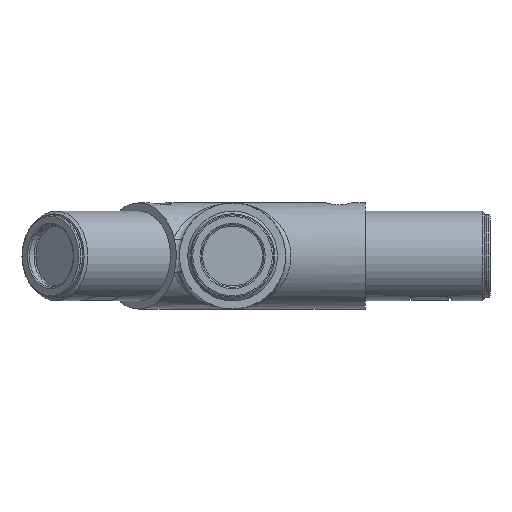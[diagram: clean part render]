
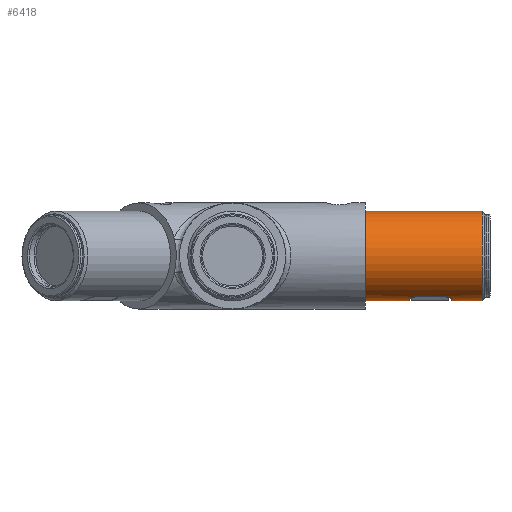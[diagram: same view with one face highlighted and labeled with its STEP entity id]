
A CAD part, left-side view. The second image highlights one B-rep face of the part: STEP entity #6418.
In plain terms, the highlighted cylindrical face has radius 16.9 mm (diameter 33.8 mm), a full revolution.
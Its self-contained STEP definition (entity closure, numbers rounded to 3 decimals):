
#389=ELLIPSE('',#6901,17.496,16.9);
#390=ELLIPSE('',#6904,17.496,16.9);
#490=CIRCLE('',#6858,16.9);
#510=CIRCLE('',#6900,16.9);
#511=CIRCLE('',#6902,16.9);
#512=CIRCLE('',#6903,16.9);
#764=CYLINDRICAL_SURFACE('',#6899,16.9);
#860=FACE_OUTER_BOUND('',#1271,.T.);
#1271=EDGE_LOOP('',(#4622,#4623,#4624,#4625,#4626,#4627,#4628,#4629,#4630,
#4631,#4632,#4633,#4634,#4635,#4636,#4637));
#1724=LINE('',#12682,#2257);
#1725=LINE('',#12697,#2258);
#1726=LINE('',#12711,#2259);
#1727=LINE('',#12726,#2260);
#2257=VECTOR('',#7714,16.9);
#2258=VECTOR('',#7717,1000.);
#2259=VECTOR('',#7720,16.9);
#2260=VECTOR('',#7723,1000.);
#2795=B_SPLINE_CURVE_WITH_KNOTS('',3,(#12686,#12687,#12688,#12689,#12690,
#12691,#12692,#12693,#12694,#12695),.UNSPECIFIED.,.F.,.F.,(4,2,2,2,4),(-0.952,
-0.869,-0.787,-0.706,-0.625),
 .UNSPECIFIED.);
#2796=B_SPLINE_CURVE_WITH_KNOTS('',3,(#12699,#12700,#12701,#12702,#12703,
#12704,#12705,#12706,#12707,#12708),.UNSPECIFIED.,.F.,.F.,(4,2,2,2,4),(-1.236,
-1.16,-1.085,-1.004,-0.924),
 .UNSPECIFIED.);
#2797=B_SPLINE_CURVE_WITH_KNOTS('',3,(#12715,#12716,#12717,#12718,#12719,
#12720,#12721,#12722,#12723,#12724),.UNSPECIFIED.,.F.,.F.,(4,2,2,2,4),(-0.929,
-0.849,-0.769,-0.693,-0.618),
 .UNSPECIFIED.);
#2798=B_SPLINE_CURVE_WITH_KNOTS('',3,(#12728,#12729,#12730,#12731,#12732,
#12733,#12734,#12735,#12736,#12737),.UNSPECIFIED.,.F.,.F.,(4,2,2,2,4),(-1.258,
-1.177,-1.096,-1.014,-0.931),
 .UNSPECIFIED.);
#2887=VERTEX_POINT('',#11996);
#2934=VERTEX_POINT('',#12679);
#2935=VERTEX_POINT('',#12681);
#2936=VERTEX_POINT('',#12683);
#2937=VERTEX_POINT('',#12685);
#2938=VERTEX_POINT('',#12696);
#2939=VERTEX_POINT('',#12698);
#2940=VERTEX_POINT('',#12709);
#2941=VERTEX_POINT('',#12712);
#2942=VERTEX_POINT('',#12714);
#2943=VERTEX_POINT('',#12725);
#2944=VERTEX_POINT('',#12727);
#3523=EDGE_CURVE('',#2887,#2887,#490,.T.);
#3597=EDGE_CURVE('',#2934,#2934,#510,.T.);
#3598=EDGE_CURVE('',#2934,#2935,#1724,.T.);
#3599=EDGE_CURVE('',#2936,#2935,#389,.T.);
#3600=EDGE_CURVE('',#2936,#2937,#2795,.T.);
#3601=EDGE_CURVE('',#2937,#2938,#1725,.T.);
#3602=EDGE_CURVE('',#2938,#2939,#2796,.T.);
#3603=EDGE_CURVE('',#2939,#2940,#511,.T.);
#3604=EDGE_CURVE('',#2940,#2887,#1726,.T.);
#3605=EDGE_CURVE('',#2940,#2941,#512,.T.);
#3606=EDGE_CURVE('',#2941,#2942,#2797,.T.);
#3607=EDGE_CURVE('',#2942,#2943,#1727,.T.);
#3608=EDGE_CURVE('',#2943,#2944,#2798,.T.);
#3609=EDGE_CURVE('',#2935,#2944,#390,.T.);
#4622=ORIENTED_EDGE('',*,*,#3597,.T.);
#4623=ORIENTED_EDGE('',*,*,#3598,.T.);
#4624=ORIENTED_EDGE('',*,*,#3599,.F.);
#4625=ORIENTED_EDGE('',*,*,#3600,.T.);
#4626=ORIENTED_EDGE('',*,*,#3601,.T.);
#4627=ORIENTED_EDGE('',*,*,#3602,.T.);
#4628=ORIENTED_EDGE('',*,*,#3603,.T.);
#4629=ORIENTED_EDGE('',*,*,#3604,.T.);
#4630=ORIENTED_EDGE('',*,*,#3523,.T.);
#4631=ORIENTED_EDGE('',*,*,#3604,.F.);
#4632=ORIENTED_EDGE('',*,*,#3605,.T.);
#4633=ORIENTED_EDGE('',*,*,#3606,.T.);
#4634=ORIENTED_EDGE('',*,*,#3607,.T.);
#4635=ORIENTED_EDGE('',*,*,#3608,.T.);
#4636=ORIENTED_EDGE('',*,*,#3609,.F.);
#4637=ORIENTED_EDGE('',*,*,#3598,.F.);
#6418=ADVANCED_FACE('',(#860),#764,.T.);
#6858=AXIS2_PLACEMENT_3D('',#11997,#7605,#7606);
#6899=AXIS2_PLACEMENT_3D('',#12678,#7710,#7711);
#6900=AXIS2_PLACEMENT_3D('',#12680,#7712,#7713);
#6901=AXIS2_PLACEMENT_3D('',#12684,#7715,#7716);
#6902=AXIS2_PLACEMENT_3D('',#12710,#7718,#7719);
#6903=AXIS2_PLACEMENT_3D('',#12713,#7721,#7722);
#6904=AXIS2_PLACEMENT_3D('',#12738,#7724,#7725);
#7605=DIRECTION('center_axis',(0.,1.,0.));
#7606=DIRECTION('ref_axis',(0.,0.,-1.));
#7710=DIRECTION('center_axis',(0.,1.,0.));
#7711=DIRECTION('ref_axis',(0.,0.,1.));
#7712=DIRECTION('center_axis',(0.,-1.,0.));
#7713=DIRECTION('ref_axis',(0.,0.,1.));
#7714=DIRECTION('',(0.,-1.,0.));
#7715=DIRECTION('center_axis',(0.,-0.966,
-0.259));
#7716=DIRECTION('ref_axis',(0.,0.259,-0.966));
#7717=DIRECTION('',(0.,-1.,0.));
#7718=DIRECTION('center_axis',(0.,-1.,0.));
#7719=DIRECTION('ref_axis',(0.,0.,-1.));
#7720=DIRECTION('',(0.,-1.,0.));
#7721=DIRECTION('center_axis',(0.,-1.,0.));
#7722=DIRECTION('ref_axis',(0.,0.,-1.));
#7723=DIRECTION('',(0.,1.,0.));
#7724=DIRECTION('center_axis',(0.,-0.966,
-0.259));
#7725=DIRECTION('ref_axis',(0.,0.259,-0.966));
#11996=CARTESIAN_POINT('',(-27.97,-67.644,-14.414));
#11997=CARTESIAN_POINT('Origin',(-27.97,-67.644,2.486));
#12678=CARTESIAN_POINT('Origin',(-27.97,-68.644,2.486));
#12679=CARTESIAN_POINT('',(-27.97,-23.644,-14.414));
#12680=CARTESIAN_POINT('Origin',(-27.97,-23.644,2.486));
#12681=CARTESIAN_POINT('',(-27.97,-40.319,-14.414));
#12682=CARTESIAN_POINT('',(-27.97,-68.644,-14.414));
#12683=CARTESIAN_POINT('',(-32.97,-40.521,-13.658));
#12684=CARTESIAN_POINT('Origin',(-27.97,-44.847,2.486));
#12685=CARTESIAN_POINT('',(-34.97,-42.796,-12.896));
#12686=CARTESIAN_POINT('Ctrl Pts',(-32.97,-40.521,
-13.658));
#12687=CARTESIAN_POINT('Ctrl Pts',(-33.231,-40.543,
-13.577));
#12688=CARTESIAN_POINT('Ctrl Pts',(-33.503,-40.623,
-13.485));
#12689=CARTESIAN_POINT('Ctrl Pts',(-33.994,-40.887,
-13.306));
#12690=CARTESIAN_POINT('Ctrl Pts',(-34.215,-41.069,-13.219));
#12691=CARTESIAN_POINT('Ctrl Pts',(-34.56,-41.467,
-13.078));
#12692=CARTESIAN_POINT('Ctrl Pts',(-34.711,-41.71,
-13.012));
#12693=CARTESIAN_POINT('Ctrl Pts',(-34.916,-42.24,
-12.921));
#12694=CARTESIAN_POINT('Ctrl Pts',(-34.97,-42.526,
-12.896));
#12695=CARTESIAN_POINT('Ctrl Pts',(-34.97,-42.796,
-12.896));
#12696=CARTESIAN_POINT('',(-34.97,-54.144,-12.896));
#12697=CARTESIAN_POINT('',(-34.97,-68.644,-12.896));
#12698=CARTESIAN_POINT('',(-32.97,-56.144,-13.658));
#12699=CARTESIAN_POINT('Ctrl Pts',(-34.97,-54.144,
-12.896));
#12700=CARTESIAN_POINT('Ctrl Pts',(-34.97,-54.395,
-12.896));
#12701=CARTESIAN_POINT('Ctrl Pts',(-34.919,-54.661,
-12.92));
#12702=CARTESIAN_POINT('Ctrl Pts',(-34.72,-55.147,-13.008));
#12703=CARTESIAN_POINT('Ctrl Pts',(-34.571,-55.366,
-13.073));
#12704=CARTESIAN_POINT('Ctrl Pts',(-34.222,-55.724,
-13.216));
#12705=CARTESIAN_POINT('Ctrl Pts',(-33.995,-55.882,
-13.306));
#12706=CARTESIAN_POINT('Ctrl Pts',(-33.497,-56.092,
-13.487));
#12707=CARTESIAN_POINT('Ctrl Pts',(-33.226,-56.144,
-13.578));
#12708=CARTESIAN_POINT('Ctrl Pts',(-32.97,-56.144,
-13.658));
#12709=CARTESIAN_POINT('',(-27.97,-56.144,-14.414));
#12710=CARTESIAN_POINT('Origin',(-27.97,-56.144,2.486));
#12711=CARTESIAN_POINT('',(-27.97,-68.644,-14.414));
#12712=CARTESIAN_POINT('',(-22.97,-56.144,-13.658));
#12713=CARTESIAN_POINT('Origin',(-27.97,-56.144,2.486));
#12714=CARTESIAN_POINT('',(-20.97,-54.144,-12.896));
#12715=CARTESIAN_POINT('Ctrl Pts',(-22.97,-56.144,
-13.658));
#12716=CARTESIAN_POINT('Ctrl Pts',(-22.714,-56.144,
-13.578));
#12717=CARTESIAN_POINT('Ctrl Pts',(-22.442,-56.092,
-13.487));
#12718=CARTESIAN_POINT('Ctrl Pts',(-21.944,-55.882,
-13.306));
#12719=CARTESIAN_POINT('Ctrl Pts',(-21.717,-55.724,
-13.216));
#12720=CARTESIAN_POINT('Ctrl Pts',(-21.369,-55.366,-13.073));
#12721=CARTESIAN_POINT('Ctrl Pts',(-21.22,-55.147,-13.008));
#12722=CARTESIAN_POINT('Ctrl Pts',(-21.02,-54.661,
-12.92));
#12723=CARTESIAN_POINT('Ctrl Pts',(-20.97,-54.395,
-12.896));
#12724=CARTESIAN_POINT('Ctrl Pts',(-20.97,-54.144,
-12.896));
#12725=CARTESIAN_POINT('',(-20.97,-42.796,-12.896));
#12726=CARTESIAN_POINT('',(-20.97,-68.644,-12.896));
#12727=CARTESIAN_POINT('',(-22.97,-40.521,-13.658));
#12728=CARTESIAN_POINT('Ctrl Pts',(-20.97,-42.796,
-12.896));
#12729=CARTESIAN_POINT('Ctrl Pts',(-20.97,-42.526,
-12.896));
#12730=CARTESIAN_POINT('Ctrl Pts',(-21.023,-42.24,
-12.921));
#12731=CARTESIAN_POINT('Ctrl Pts',(-21.228,-41.71,
-13.012));
#12732=CARTESIAN_POINT('Ctrl Pts',(-21.38,-41.467,
-13.078));
#12733=CARTESIAN_POINT('Ctrl Pts',(-21.725,-41.069,
-13.219));
#12734=CARTESIAN_POINT('Ctrl Pts',(-21.945,-40.887,
-13.306));
#12735=CARTESIAN_POINT('Ctrl Pts',(-22.437,-40.623,
-13.485));
#12736=CARTESIAN_POINT('Ctrl Pts',(-22.708,-40.543,
-13.577));
#12737=CARTESIAN_POINT('Ctrl Pts',(-22.97,-40.521,
-13.658));
#12738=CARTESIAN_POINT('Origin',(-27.97,-44.847,2.486));
